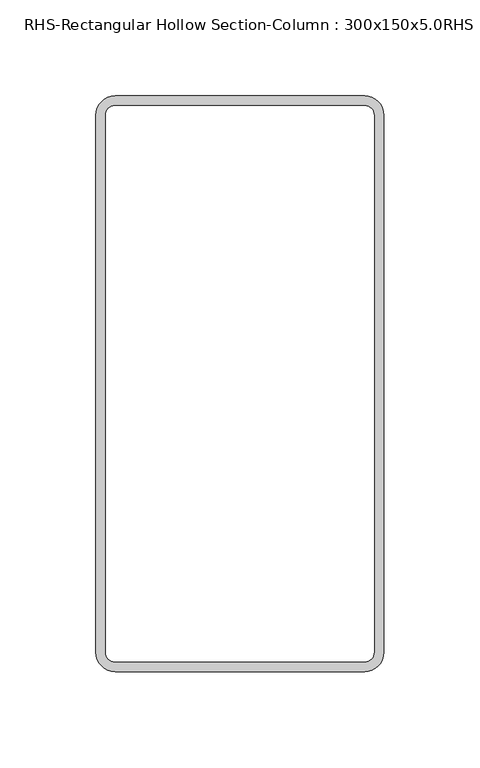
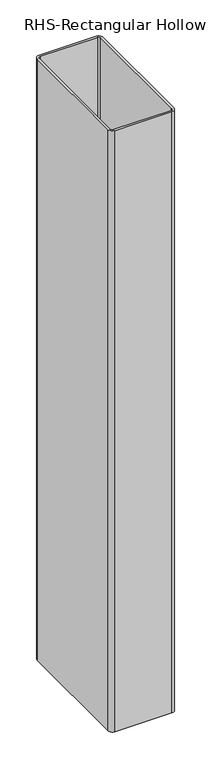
"""IFC4 building model written with IfcOpenShell, lengths in millimetres: column geometry, RHS-Rectangular Hollow Section-Column : 300x150x5.0RHS."""

from ifc_helpers import new_model, si_unit, point, frame, frame_2d, origin, place, context, project, spatial, polyline, circle_curve, trimmed, segment, composite_curve, outline, extrude, source, transform, mapped, element, save


def rhs_rectangular_hollow_section_column_300x150x5_0rhs_4ea1d480(model_context):
    return source(origin(), model_context, "Body", "SweptSolid", [
        extrude(outline(composite_curve([segment(trimmed(circle_curve(frame_2d((65.0, 140.0)), 10.0), [point((65.0, 150.0))], [point((75.0, 140.0))], False, "CARTESIAN"), True, "CONTINUOUS"), segment(polyline([(75.0, 140.0), (75.0, -140.0)]), True, "CONTINUOUS"), segment(trimmed(circle_curve(frame_2d((65.0, -140.0)), 10.0), [point((75.0, -140.0))], [point((65.0, -150.0))], False, "CARTESIAN"), True, "CONTINUOUS"), segment(polyline([(65.0, -150.0), (-65.0, -150.0)]), True, "CONTINUOUS"), segment(trimmed(circle_curve(frame_2d((-65.0, -140.0)), 10.0), [point((-65.0, -150.0))], [point((-75.0, -140.0))], False, "CARTESIAN"), True, "CONTINUOUS"), segment(polyline([(-75.0, -140.0), (-75.0, 140.0)]), True, "CONTINUOUS"), segment(trimmed(circle_curve(frame_2d((-65.0, 140.0)), 10.0), [point((-75.0, 140.0))], [point((-65.0, 150.0))], False, "CARTESIAN"), True, "CONTINUOUS"), segment(polyline([(-65.0, 150.0), (65.0, 150.0)]), True, "CONTINUOUS")], self_intersect=False), holes=[composite_curve([segment(polyline([(65.0, 145.0), (-65.0, 145.0)]), True, "CONTINUOUS"), segment(trimmed(circle_curve(frame_2d((-65.0, 140.0)), 5.0), [point((-65.0, 145.0))], [point((-70.0, 140.0))], True, "CARTESIAN"), True, "CONTINUOUS"), segment(polyline([(-70.0, 140.0), (-70.0, -140.0)]), True, "CONTINUOUS"), segment(trimmed(circle_curve(frame_2d((-65.0, -140.0)), 5.0), [point((-70.0, -140.0))], [point((-65.0, -145.0))], True, "CARTESIAN"), True, "CONTINUOUS"), segment(polyline([(-65.0, -145.0), (65.0, -145.0)]), True, "CONTINUOUS"), segment(trimmed(circle_curve(frame_2d((65.0, -140.0)), 5.0), [point((65.0, -145.0))], [point((70.0, -140.0))], True, "CARTESIAN"), True, "CONTINUOUS"), segment(polyline([(70.0, -140.0), (70.0, 140.0)]), True, "CONTINUOUS"), segment(trimmed(circle_curve(frame_2d((65.0, 140.0)), 5.0), [point((70.0, 140.0))], [point((65.0, 145.0))], True, "CARTESIAN"), True, "CONTINUOUS")], self_intersect=False)]), frame((0.0, 0.0, 37860.0), z_axis=(0.0, 0.0, 1.0), x_axis=(1.0, 0.0, 0.0)), (0.0, 0.0, 1.0), 1450.0),
    ])


if __name__ == "__main__":
    model = new_model("IFC4")
    model_context = context("Model", 3, world=origin())
    ifc_project = project(units=[si_unit("LENGTHUNIT", "METRE", prefix="MILLI")], contexts=[model_context])
    site = spatial("IfcSite", under=ifc_project)
    building = spatial("IfcBuilding", under=site)
    placement = place(None, origin())
    rhs_rectangular_hollow_section_column_300x150x5_0rhs_shape = rhs_rectangular_hollow_section_column_300x150x5_0rhs_4ea1d480(model_context)
    element("IfcColumn", 1, ObjectType="RHS-Rectangular Hollow Section-Column : 300x150x5.0RHS", at=placement, inside=building, context=model_context, shape_type="MappedRepresentation", body=[
        mapped(rhs_rectangular_hollow_section_column_300x150x5_0rhs_shape, transform((0.0, 0.0, 0.0), x_axis=(1.0, 0.0, 0.0), y_axis=(0.0, 1.0, 0.0), z_axis=(0.0, 0.0, 1.0))),
    ])
    save(model, "model.ifc")
